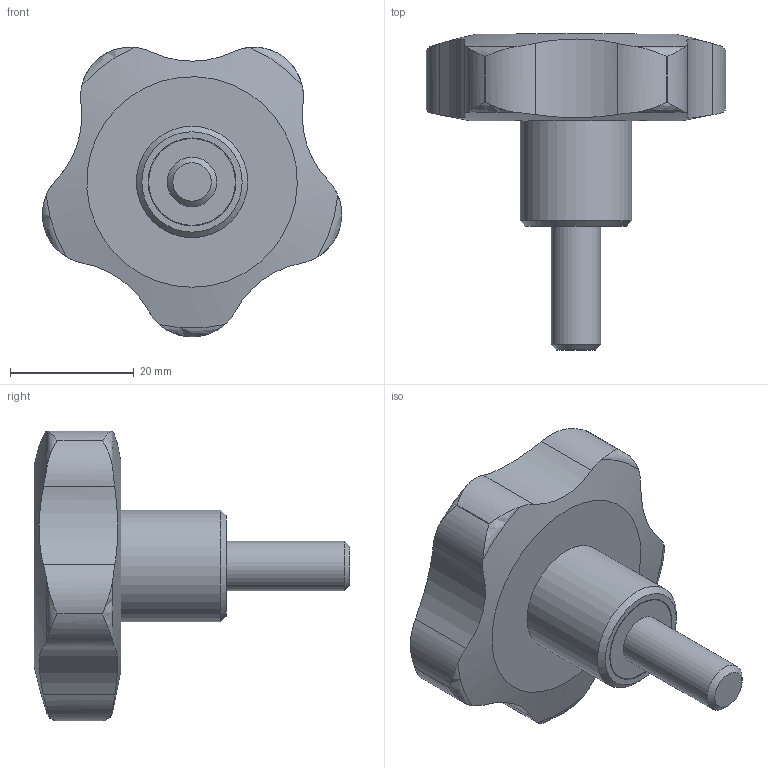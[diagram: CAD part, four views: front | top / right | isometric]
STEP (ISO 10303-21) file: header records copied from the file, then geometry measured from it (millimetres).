
FILE_DESCRIPTION( ( 'STEP AP203' ), '1' );
FILE_NAME( 'C:/Temp/Ganter_Step_05_03_2020/data/2_2/gn_5337_4/gn_5337_4_s/Star knob GN 5337.4-50-M8-20.stp', '2020-03-05T12:09:47', ( 'License CC BY-ND 4.0' ), ( 'CADENAS' ), ' ', 'PARTsolutions', ' ' );
FILE_SCHEMA( ( 'CONFIG_CONTROL_DESIGN' ) );
Length unit declared in the file: millimetre
Products named in the file (1): _Star knob GN 5337.4-50-M8-20
Bounding box: 48.33 x 51 x 46.75 mm (x, y, z)
Volume: 25540.6 mm3; surface area: 6308.9 mm2
Topology: 1 solids, 1 shells, 44 faces, 115 edges, 76 vertices
Faces by surface type: cylinder 24, torus 10, plane 5, cone 3, bspline 1, sphere 1
Full cylindrical faces by diameter (mm): 8 x1, 14 x1, 14.2 x1, 18 x1
Entity records: 1975 total; most frequent: CARTESIAN_POINT 974, ORIENTED_EDGE 204, DIRECTION 172, EDGE_CURVE 102, AXIS2_PLACEMENT_3D 76, VERTEX_POINT 74, EDGE_LOOP 56, B_SPLINE_CURVE_WITH_KNOTS 50
